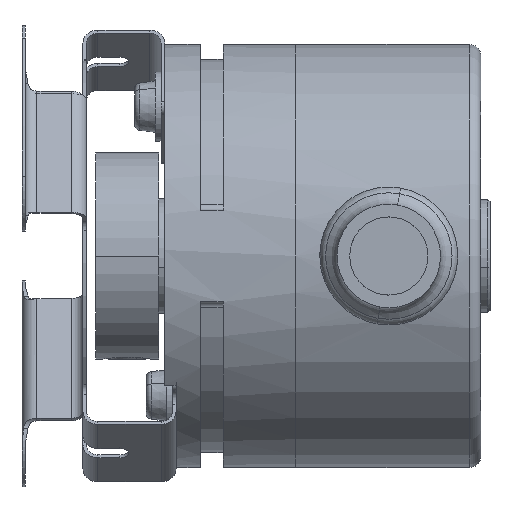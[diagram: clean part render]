
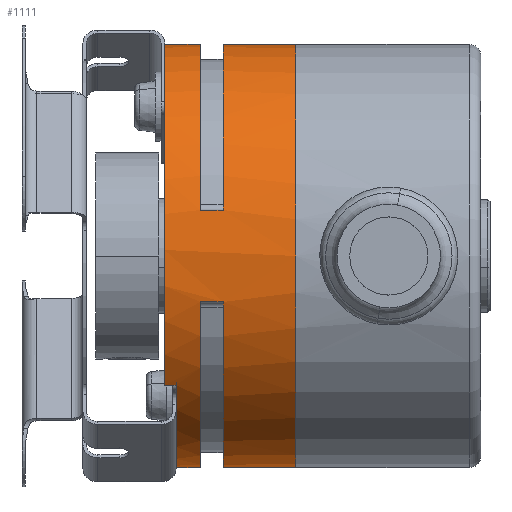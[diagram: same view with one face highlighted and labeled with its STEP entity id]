
A CAD part, front view. The second image highlights one B-rep face of the part: STEP entity #1111.
In plain terms, the highlighted cylindrical face has radius 18.4 mm (diameter 36.8 mm), a partial arc.
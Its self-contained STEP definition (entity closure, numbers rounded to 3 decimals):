
#697 = VERTEX_POINT ( 'NONE', #29422 ) ;
#698 = VERTEX_POINT ( 'NONE', #29421 ) ;
#700 = EDGE_CURVE ( 'NONE', #698, #701, #29420, .T. ) ;
#701 = VERTEX_POINT ( 'NONE', #29416 ) ;
#706 = VERTEX_POINT ( 'NONE', #29405 ) ;
#708 = EDGE_CURVE ( 'NONE', #709, #706, #29404, .T. ) ;
#709 = VERTEX_POINT ( 'NONE', #29461 ) ;
#718 = VERTEX_POINT ( 'NONE', #29444 ) ;
#728 = VERTEX_POINT ( 'NONE', #29493 ) ;
#730 = EDGE_CURVE ( 'NONE', #728, #731, #29492, .T. ) ;
#731 = VERTEX_POINT ( 'NONE', #29488 ) ;
#1034 = EDGE_LOOP ( 'NONE', ( #1035, #1036, #1037, #1197, #1235, #1127, #1195, #1196, #1130, #1184, #1204, #1120, #1122, #1123, #1169, #1172 ) ) ;
#1035 = ORIENTED_EDGE ( 'NONE', *, *, #700, .F. ) ;
#1036 = ORIENTED_EDGE ( 'NONE', *, *, #1151, .T. ) ;
#1037 = ORIENTED_EDGE ( 'NONE', *, *, #25966, .T. ) ;
#1111 = ADVANCED_FACE ( 'NONE', ( #30527 ), #30568, .T. ) ;
#1119 = VERTEX_POINT ( 'NONE', #30553 ) ;
#1120 = ORIENTED_EDGE ( 'NONE', *, *, #1121, .F. ) ;
#1121 = EDGE_CURVE ( 'NONE', #731, #1119, #30552, .T. ) ;
#1122 = ORIENTED_EDGE ( 'NONE', *, *, #730, .F. ) ;
#1123 = ORIENTED_EDGE ( 'NONE', *, *, #1124, .F. ) ;
#1124 = EDGE_CURVE ( 'NONE', #1125, #728, #30610, .T. ) ;
#1125 = VERTEX_POINT ( 'NONE', #30606 ) ;
#1126 = VERTEX_POINT ( 'NONE', #30605 ) ;
#1127 = ORIENTED_EDGE ( 'NONE', *, *, #1234, .F. ) ;
#1128 = EDGE_CURVE ( 'NONE', #1129, #706, #30604, .T. ) ;
#1129 = VERTEX_POINT ( 'NONE', #30599 ) ;
#1130 = ORIENTED_EDGE ( 'NONE', *, *, #1182, .F. ) ;
#1151 = EDGE_CURVE ( 'NONE', #698, #697, #30682, .T. ) ;
#1167 = EDGE_CURVE ( 'NONE', #1168, #1183, #30667, .T. ) ;
#1168 = VERTEX_POINT ( 'NONE', #30721 ) ;
#1169 = ORIENTED_EDGE ( 'NONE', *, *, #1170, .F. ) ;
#1170 = EDGE_CURVE ( 'NONE', #1171, #1125, #30720, .T. ) ;
#1171 = VERTEX_POINT ( 'NONE', #30716 ) ;
#1172 = ORIENTED_EDGE ( 'NONE', *, *, #1173, .T. ) ;
#1173 = EDGE_CURVE ( 'NONE', #1171, #701, #30714, .T. ) ;
#1182 = EDGE_CURVE ( 'NONE', #1183, #1129, #30740, .T. ) ;
#1183 = VERTEX_POINT ( 'NONE', #30736 ) ;
#1184 = ORIENTED_EDGE ( 'NONE', *, *, #1167, .F. ) ;
#1194 = VERTEX_POINT ( 'NONE', #30797 ) ;
#1195 = ORIENTED_EDGE ( 'NONE', *, *, #708, .T. ) ;
#1196 = ORIENTED_EDGE ( 'NONE', *, *, #1128, .F. ) ;
#1197 = ORIENTED_EDGE ( 'NONE', *, *, #1246, .T. ) ;
#1203 = EDGE_CURVE ( 'NONE', #1194, #1126, #30784, .T. ) ;
#1204 = ORIENTED_EDGE ( 'NONE', *, *, #1205, .T. ) ;
#1205 = EDGE_CURVE ( 'NONE', #1168, #1119, #30780, .T. ) ;
#1234 = EDGE_CURVE ( 'NONE', #709, #1126, #30868, .T. ) ;
#1235 = ORIENTED_EDGE ( 'NONE', *, *, #1203, .T. ) ;
#1246 = EDGE_CURVE ( 'NONE', #718, #1194, #30913, .T. ) ;
#13466 = DIRECTION ( 'NONE',  ( -1., 0., 0. ) ) ;
#13467 = VECTOR ( 'NONE', #13466, 1000. ) ;
#13468 = CARTESIAN_POINT ( 'NONE',  ( 76.76, -17.498, 18.4 ) ) ;
#13469 = LINE ( 'NONE', #13468, #13467 ) ;
#25966 = EDGE_CURVE ( 'NONE', #697, #718, #13469, .T. ) ;
#29402 = DIRECTION ( 'NONE',  ( -1., 0., 0. ) ) ;
#29403 = CARTESIAN_POINT ( 'NONE',  ( 76.76, -17.498, 18.4 ) ) ;
#29404 = LINE ( 'NONE', #29403, #29462 ) ;
#29405 = CARTESIAN_POINT ( 'NONE',  ( 81.16, -17.498, 18.4 ) ) ;
#29416 = CARTESIAN_POINT ( 'NONE',  ( 86.26, -17.498, -18.4 ) ) ;
#29417 = DIRECTION ( 'NONE',  ( -1., 0., 0. ) ) ;
#29418 = VECTOR ( 'NONE', #29417, 1000. ) ;
#29419 = CARTESIAN_POINT ( 'NONE',  ( 76.76, -17.498, -18.4 ) ) ;
#29420 = LINE ( 'NONE', #29419, #29418 ) ;
#29421 = CARTESIAN_POINT ( 'NONE',  ( 92.56, -17.498, -18.4 ) ) ;
#29422 = CARTESIAN_POINT ( 'NONE',  ( 92.56, -17.498, 18.4 ) ) ;
#29444 = CARTESIAN_POINT ( 'NONE',  ( 86.26, -17.498, 18.4 ) ) ;
#29461 = CARTESIAN_POINT ( 'NONE',  ( 84.26, -17.498, 18.4 ) ) ;
#29462 = VECTOR ( 'NONE', #29402, 1000. ) ;
#29488 = CARTESIAN_POINT ( 'NONE',  ( 81.16, -17.498, -18.4 ) ) ;
#29489 = DIRECTION ( 'NONE',  ( -1., 0., 0. ) ) ;
#29490 = VECTOR ( 'NONE', #29489, 1000. ) ;
#29491 = CARTESIAN_POINT ( 'NONE',  ( 76.76, -17.498, -18.4 ) ) ;
#29492 = LINE ( 'NONE', #29491, #29490 ) ;
#29493 = CARTESIAN_POINT ( 'NONE',  ( 84.26, -17.498, -18.4 ) ) ;
#30527 = FACE_OUTER_BOUND ( 'NONE', #1034, .T. ) ;
#30547 = CARTESIAN_POINT ( 'NONE',  ( 84.26, -17.498, 0. ) ) ;
#30548 = DIRECTION ( 'NONE',  ( 0., 0., 1. ) ) ;
#30549 = DIRECTION ( 'NONE',  ( -1., 0., 0. ) ) ;
#30550 = CARTESIAN_POINT ( 'NONE',  ( 81.16, -17.498, 0. ) ) ;
#30551 = AXIS2_PLACEMENT_3D ( 'NONE', #30550, #30549, #30548 ) ;
#30552 = CIRCLE ( 'NONE', #30551, 18.4 ) ;
#30553 = CARTESIAN_POINT ( 'NONE',  ( 81.16, -19.944, -18.237 ) ) ;
#30565 = DIRECTION ( 'NONE',  ( 0., 0., 1. ) ) ;
#30566 = DIRECTION ( 'NONE',  ( -1., 0., 0. ) ) ;
#30567 = AXIS2_PLACEMENT_3D ( 'NONE', #30570, #30566, #30565 ) ;
#30568 = CYLINDRICAL_SURFACE ( 'NONE', #30567, 18.4 ) ;
#30570 = CARTESIAN_POINT ( 'NONE',  ( 76.76, -17.498, 0. ) ) ;
#30599 = CARTESIAN_POINT ( 'NONE',  ( 81.16, -32.069, -11.237 ) ) ;
#30600 = DIRECTION ( 'NONE',  ( 0., 0., 1. ) ) ;
#30601 = DIRECTION ( 'NONE',  ( -1., 0., 0. ) ) ;
#30602 = CARTESIAN_POINT ( 'NONE',  ( 81.16, -17.498, 0. ) ) ;
#30603 = AXIS2_PLACEMENT_3D ( 'NONE', #30602, #30601, #30600 ) ;
#30604 = CIRCLE ( 'NONE', #30603, 18.4 ) ;
#30605 = CARTESIAN_POINT ( 'NONE',  ( 84.26, -35.458, 4. ) ) ;
#30606 = CARTESIAN_POINT ( 'NONE',  ( 84.26, -35.458, -4. ) ) ;
#30607 = DIRECTION ( 'NONE',  ( 0., 0., -1. ) ) ;
#30608 = DIRECTION ( 'NONE',  ( 1., 0., 0. ) ) ;
#30609 = AXIS2_PLACEMENT_3D ( 'NONE', #30547, #30608, #30607 ) ;
#30610 = CIRCLE ( 'NONE', #30609, 18.4 ) ;
#30664 = DIRECTION ( 'NONE',  ( -1., 0., 0. ) ) ;
#30665 = CARTESIAN_POINT ( 'NONE',  ( 82.16, -17.498, 0. ) ) ;
#30666 = AXIS2_PLACEMENT_3D ( 'NONE', #30665, #30664, #30722 ) ;
#30667 = CIRCLE ( 'NONE', #30666, 18.4 ) ;
#30679 = DIRECTION ( 'NONE',  ( 0., 0., 1. ) ) ;
#30680 = DIRECTION ( 'NONE',  ( -1., 0., 0. ) ) ;
#30681 = AXIS2_PLACEMENT_3D ( 'NONE', #30687, #30680, #30679 ) ;
#30682 = CIRCLE ( 'NONE', #30681, 18.4 ) ;
#30687 = CARTESIAN_POINT ( 'NONE',  ( 92.56, -17.498, 0. ) ) ;
#30710 = DIRECTION ( 'NONE',  ( 0., 0., -1. ) ) ;
#30711 = DIRECTION ( 'NONE',  ( 1., 0., 0. ) ) ;
#30712 = CARTESIAN_POINT ( 'NONE',  ( 86.26, -17.498, 0. ) ) ;
#30713 = AXIS2_PLACEMENT_3D ( 'NONE', #30712, #30711, #30710 ) ;
#30714 = CIRCLE ( 'NONE', #30713, 18.4 ) ;
#30716 = CARTESIAN_POINT ( 'NONE',  ( 86.26, -35.458, -4. ) ) ;
#30717 = DIRECTION ( 'NONE',  ( -1., 0., 0. ) ) ;
#30718 = VECTOR ( 'NONE', #30717, 1000. ) ;
#30719 = CARTESIAN_POINT ( 'NONE',  ( 86.26, -35.458, -4. ) ) ;
#30720 = LINE ( 'NONE', #30719, #30718 ) ;
#30721 = CARTESIAN_POINT ( 'NONE',  ( 82.16, -19.944, -18.237 ) ) ;
#30722 = DIRECTION ( 'NONE',  ( 0., 0., 1. ) ) ;
#30736 = CARTESIAN_POINT ( 'NONE',  ( 82.16, -32.069, -11.237 ) ) ;
#30737 = DIRECTION ( 'NONE',  ( -1., 0., 0. ) ) ;
#30738 = VECTOR ( 'NONE', #30737, 1000. ) ;
#30739 = CARTESIAN_POINT ( 'NONE',  ( 82.16, -32.069, -11.237 ) ) ;
#30740 = LINE ( 'NONE', #30739, #30738 ) ;
#30776 = DIRECTION ( 'NONE',  ( -1., 0., 0. ) ) ;
#30777 = VECTOR ( 'NONE', #30776, 1000. ) ;
#30778 = CARTESIAN_POINT ( 'NONE',  ( 82.16, -19.944, -18.237 ) ) ;
#30780 = LINE ( 'NONE', #30778, #30777 ) ;
#30781 = DIRECTION ( 'NONE',  ( -1., 0., 0. ) ) ;
#30782 = VECTOR ( 'NONE', #30781, 1000. ) ;
#30783 = CARTESIAN_POINT ( 'NONE',  ( 86.26, -35.458, 4. ) ) ;
#30784 = LINE ( 'NONE', #30783, #30782 ) ;
#30797 = CARTESIAN_POINT ( 'NONE',  ( 86.26, -35.458, 4. ) ) ;
#30864 = DIRECTION ( 'NONE',  ( 0., 0., -1. ) ) ;
#30865 = DIRECTION ( 'NONE',  ( 1., 0., 0. ) ) ;
#30866 = CARTESIAN_POINT ( 'NONE',  ( 84.26, -17.498, 0. ) ) ;
#30867 = AXIS2_PLACEMENT_3D ( 'NONE', #30866, #30865, #30864 ) ;
#30868 = CIRCLE ( 'NONE', #30867, 18.4 ) ;
#30909 = DIRECTION ( 'NONE',  ( 0., 0., -1. ) ) ;
#30910 = DIRECTION ( 'NONE',  ( 1., 0., 0. ) ) ;
#30911 = CARTESIAN_POINT ( 'NONE',  ( 86.26, -17.498, 0. ) ) ;
#30912 = AXIS2_PLACEMENT_3D ( 'NONE', #30911, #30910, #30909 ) ;
#30913 = CIRCLE ( 'NONE', #30912, 18.4 ) ;
